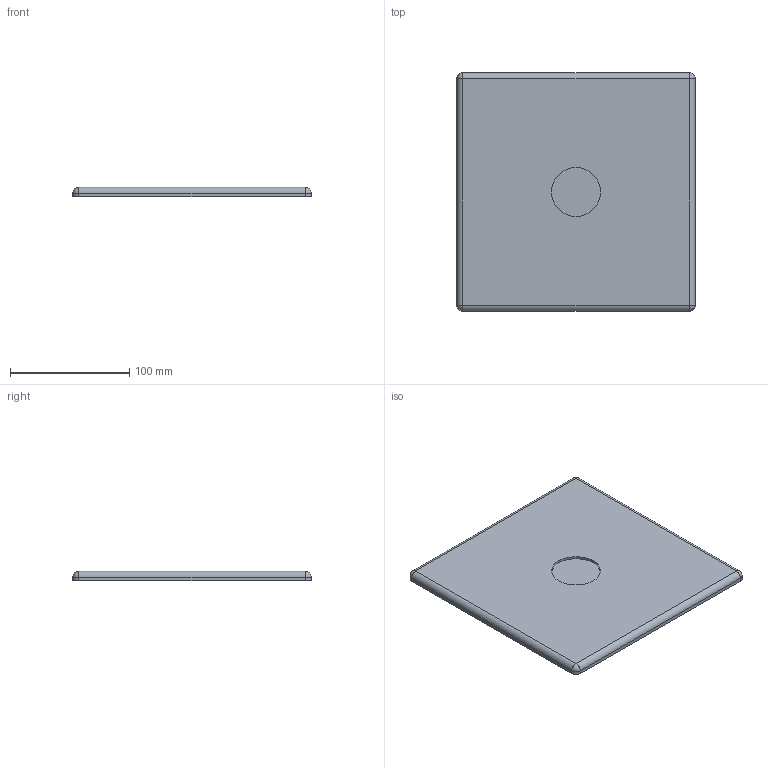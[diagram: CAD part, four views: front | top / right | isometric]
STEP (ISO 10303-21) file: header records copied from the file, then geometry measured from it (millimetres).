
FILE_DESCRIPTION(/* description */ ('STEP AP242 Edition 2','CAx-IF Rec.Pracs.---Representation and Presentation of Product Manufacturing Information (PMI)---4.0---2014-10-13','CAx-IF Rec.Pracs.---3D Tessellated Geometry---0.4---2014-09-14','2;1','CAx-IF Rec.Pracs.---User Defined Attributes---1.5---2016-08-15'),/* implementation_level */ '2;1');
FILE_NAME(/* name */ 'Assembly 1 - Part 1',/* time_stamp */ '2026-10-18T18:48:31Z',/* author */ (''),/* organization */ (''),/* preprocessor_version */ 'ST-DEVELOPER v20',/* originating_system */ 'ONSHAPE BY PTC INC, 1.222',/* authorisation */ ' ');
FILE_SCHEMA (('AP242_MANAGED_MODEL_BASED_3D_ENGINEERING_MIM_LF { 1 0 10303 442 3 1 4 }'));
Length unit declared in the file: metre
Products named in the file (1): Part 1
Bounding box: 200 x 200 x 8 mm (x, y, z)
Volume: 312979.5 mm3; surface area: 84836.5 mm2
Topology: 1 solids, 1 shells, 20 faces, 43 edges, 22 vertices
Faces by surface type: cylinder 9, plane 7, sphere 4
Full cylindrical faces by diameter (mm): 41 x1
Entity records: 522 total; most frequent: DIRECTION 98, CARTESIAN_POINT 81, ORIENTED_EDGE 76, AXIS2_PLACEMENT_3D 39, EDGE_CURVE 38, VERTEX_POINT 22, EDGE_LOOP 22, FACE_BOUND 22
